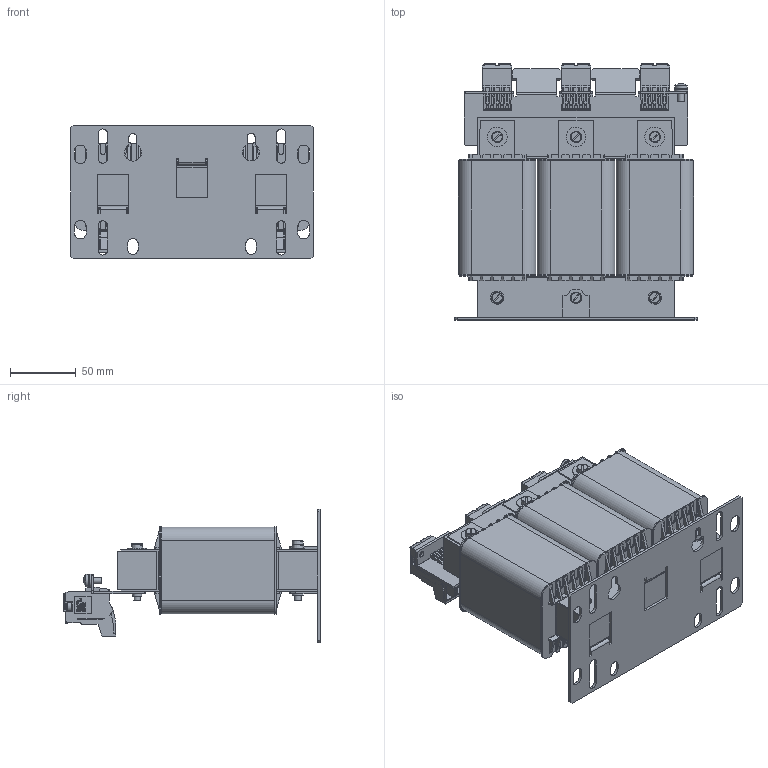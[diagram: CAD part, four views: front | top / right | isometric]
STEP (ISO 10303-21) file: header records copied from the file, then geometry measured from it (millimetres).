
FILE_DESCRIPTION (( 'STEP AP214' ), '1' );
FILE_NAME ('PCT-040.STEP', '2015-04-28T10:52:53', ( 'EDV' ), ( 'Microsoft' ), 'SwSTEP 2.0', 'SolidWorks 2014', '' );
FILE_SCHEMA (( 'AUTOMOTIVE_DESIGN' ));
Length unit declared in the file: millimetre
Products named in the file (17): Pan Head Cross Recess Screw_DIN_ISO 7045 - M5 x 10 - Z --- 10N; BTK 10_2 +2202-0024; WickelUI90_31,5_1oD; UI90-31,5-oD; #080-0546; #040-0876; #144-0148; Luftspalt 150x29,5x1,4mm; Schenkel 3UI 90-29,5; Luftspalt 150x29,5x1mm; Joch 3UI 90-29,5; PCT-040; Slotted Cheese Head Screw_DIN_ISO 1207 - M5 x 16 --- 16N; Slotted Cheese Head Screw_DIN_ISO 1207 - M5 x 40 --- 40N; Plain Washer Large_DIN_Washer DIN 9021 - 5.3; Curved Spring Lock Washer_DIN_Spring washer DIN 128 - A5; Plain Washer Grade A_DIN_Washer DIN 125 - A 5.3
Assembly tree (34 placements, depth 2):
  PCT-040
    Joch 3UI 90-29,5  x2
    Luftspalt 150x29,5x1mm
    Schenkel 3UI 90-29,5  x3
    Luftspalt 150x29,5x1,4mm
    #144-0148  x2
    #040-0876
    #080-0546
    UI90-31,5-oD  x3
    WickelUI90_31,5_1oD  x3
    BTK 10_2 +2202-0024  x3
    Pan Head Cross Recess Screw_DIN_ISO 7045 - M5 x 10 - Z --- 10N
    Plain Washer Grade A_DIN_Washer DIN 125 - A 5.3  x3
    Curved Spring Lock Washer_DIN_Spring washer DIN 128 - A5
    Plain Washer Large_DIN_Washer DIN 9021 - 5.3  x3
    Slotted Cheese Head Screw_DIN_ISO 1207 - M5 x 40 --- 40N  x5
    Slotted Cheese Head Screw_DIN_ISO 1207 - M5 x 16 --- 16N
Bounding box: 185 x 195.1 x 102 mm (x, y, z)
Volume: 1400751.6 mm3; surface area: 471998.8 mm2
Topology: 34 solids, 34 shells, 7996 faces, 21879 edges, 14095 vertices
Faces by surface type: plane 6082, cylinder 1228, bspline 358, torus 316, cone 11, sphere 1
Full cylindrical faces by diameter (mm): 3.76 x1, 4.6 x5, 5 x7, 5.3 x6, 5.5 x3, 6.2 x6, 6.95 x1, 7 x3, 7.15 x1, 8.5 x9, 9.5 x1, 10 x3, 15 x3
Entity records: 112059 total; most frequent: CARTESIAN_POINT 29369, ORIENTED_EDGE 17318, DIRECTION 15141, EDGE_CURVE 8659, LINE 7147, VECTOR 7147, VERTEX_POINT 5612, AXIS2_PLACEMENT_3D 3997
